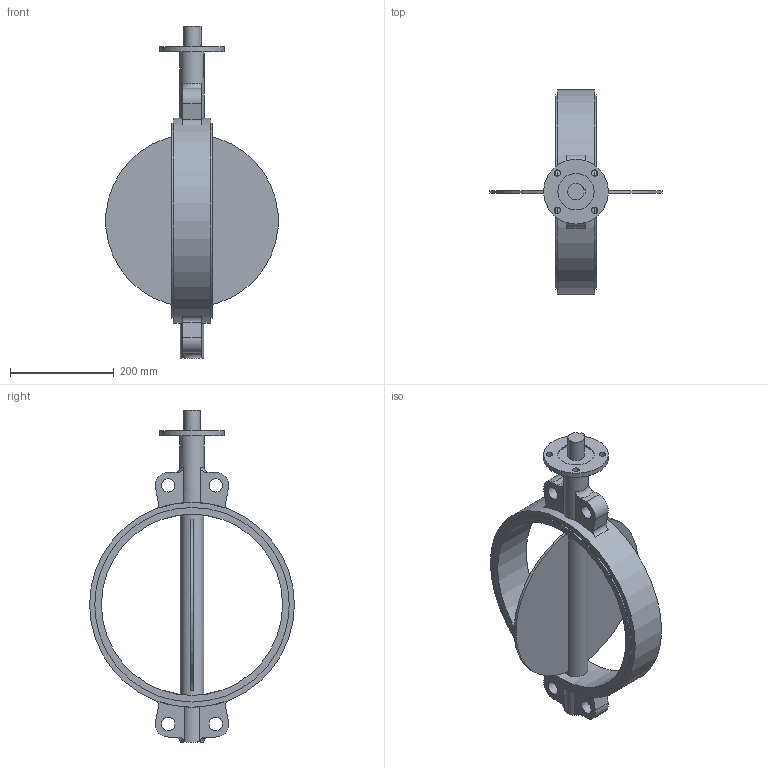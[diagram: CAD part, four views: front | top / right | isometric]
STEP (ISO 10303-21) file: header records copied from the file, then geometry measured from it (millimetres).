
FILE_DESCRIPTION(('STEP AP203'), '1');
FILE_NAME('青蜮铕 017W.Y_DN350_PN16', '', ('UNSPECIFIED'), ('UNSPECIFIED'), 'ASCON STEP Converter 1.6', 'ASCON Math Kernel', '');
FILE_SCHEMA(('CONFIG_CONTROL_DESIGN'));
Length unit declared in the file: millimetre
Bounding box: 332.13 x 395.6 x 641 mm (x, y, z)
Volume: 3735670.1 mm3; surface area: 519698.3 mm2
Topology: 1 solids, 1 shells, 90 faces, 219 edges, 144 vertices
Faces by surface type: plane 48, cylinder 38, torus 4
Full cylindrical faces by diameter (mm): 12 x4, 26 x4, 31.7 x1, 45 x1, 47 x1, 70 x1, 125 x1, 350 x1, 375.6 x2, 395.6 x1
Entity records: 4782 total; most frequent: CARTESIAN_POINT 1879, DIRECTION 454, ORIENTED_EDGE 404, EDGE_CURVE 202, AXIS2_PLACEMENT_3D 181, VERTEX_POINT 144, EDGE_LOOP 140, FACE_BOUND 108
